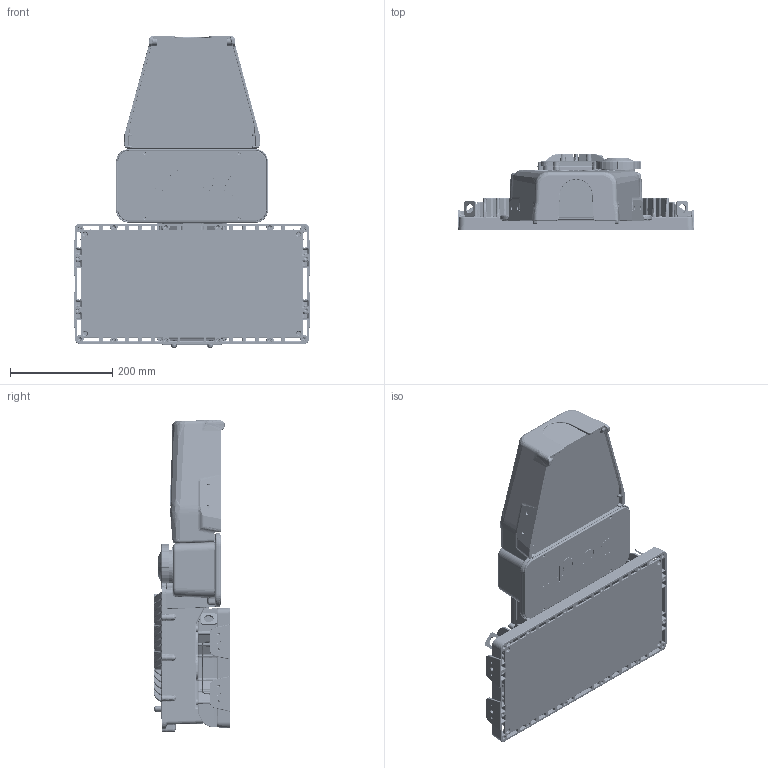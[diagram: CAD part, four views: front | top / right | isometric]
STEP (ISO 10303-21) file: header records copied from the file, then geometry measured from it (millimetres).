
FILE_DESCRIPTION((''),'2;1');
FILE_NAME('8F1X_MAST_ARM_PC_MARKETING_ASM','2024-08-22T12:18:04',('cwang'),(''),'CREO PARAMETRIC BY PTC INC, 2021304','CREO PARAMETRIC BY PTC INC, 2021304','');
FILE_SCHEMA(('CONFIG_CONTROL_DESIGN'));
Products named in the file (25): 0000690301; 0000690295_ASM; 0000690311; 0000690312; 0000690296_ASM; 0000690310; 0000690313; 0000690316; 0000690307; 0000690317; 0000690297_ASM; 0000690318; 0000690320; 0000690298_ASM; 0000690323; 0000690324; 0000690300_ASM; 0000690327; 0000690333; 9300STL000401; 9300STL000403; 6000STL000300; SLXXXXX_PHOTOCELL_ASM; 9300STL000402; 8F1X_MAST_ARM_PC_MARKETING_ASM
Assembly tree (40 placements, depth 3):
  8F1X_MAST_ARM_PC_MARKETING_ASM
    0000690301
    0000690295_ASM
    0000690311
    0000690296_ASM
      0000690312
    0000690310
    0000690313
    0000690316  x3
    0000690307  x3
    0000690297_ASM
      0000690317
    0000690318  x2
    0000690298_ASM
      0000690320
    0000690323
    0000690300_ASM
      0000690324
    0000690327  x6
    0000690333  x6
    SLXXXXX_PHOTOCELL_ASM
      9300STL000401
      9300STL000403
      6000STL000300  x2
    9300STL000402
Bounding box: 462.38 x 149.1 x 610.35 mm (x, y, z)
Volume: 12302286.8 mm3; surface area: 1461179 mm2
Topology: 28 solids, 206 shells, 14350 faces, 35040 edges, 20735 vertices
Faces by surface type: bspline 4724, cylinder 4292, plane 2464, torus 1415, cone 1161, sphere 278, extrusion 16
Entity records: 790698 total; most frequent: CARTESIAN_POINT 502596, ORIENTED_EDGE 65955, DIRECTION 50911, EDGE_CURVE 33398, AXIS2_PLACEMENT_3D 20291, VERTEX_POINT 19874, EDGE_LOOP 14336, FACE_OUTER_BOUND 13883
